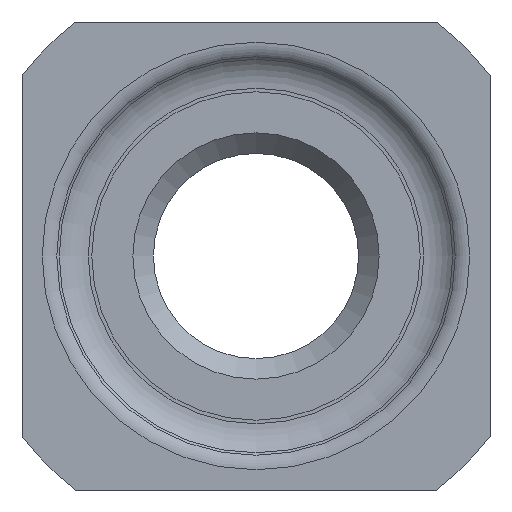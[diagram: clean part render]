
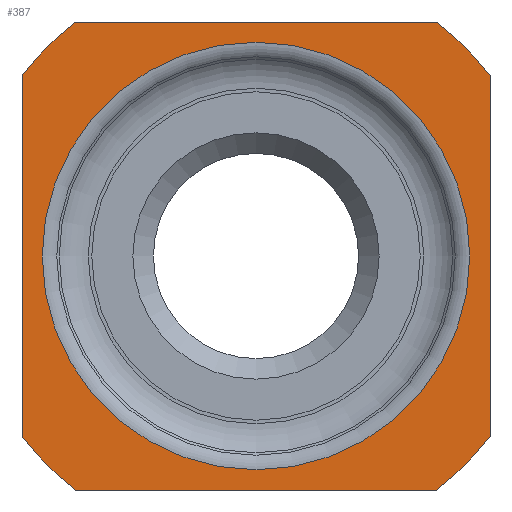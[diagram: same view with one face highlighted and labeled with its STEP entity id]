
A CAD part, front view. The second image highlights one B-rep face of the part: STEP entity #387.
In plain terms, the highlighted planar face has unit normal (0, -1, 0).
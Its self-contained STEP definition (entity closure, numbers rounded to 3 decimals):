
#27=FACE_BOUND('',#78,.T.);
#31=PLANE('',#448);
#51=FACE_OUTER_BOUND('',#77,.T.);
#77=EDGE_LOOP('',(#289,#290,#291,#292,#293,#294,#295,#296));
#78=EDGE_LOOP('',(#297));
#103=LINE('',#659,#121);
#104=LINE('',#663,#122);
#105=LINE('',#667,#123);
#106=LINE('',#670,#124);
#121=VECTOR('',#535,10.);
#122=VECTOR('',#538,10.);
#123=VECTOR('',#541,10.);
#124=VECTOR('',#544,10.);
#142=CIRCLE('',#442,5.207);
#147=CIRCLE('',#449,7.2);
#148=CIRCLE('',#450,7.2);
#149=CIRCLE('',#451,7.2);
#150=CIRCLE('',#452,7.2);
#173=VERTEX_POINT('',#643);
#177=VERTEX_POINT('',#655);
#178=VERTEX_POINT('',#656);
#179=VERTEX_POINT('',#658);
#180=VERTEX_POINT('',#660);
#181=VERTEX_POINT('',#662);
#182=VERTEX_POINT('',#664);
#183=VERTEX_POINT('',#666);
#184=VERTEX_POINT('',#668);
#213=EDGE_CURVE('',#173,#173,#142,.T.);
#219=EDGE_CURVE('',#177,#178,#147,.T.);
#220=EDGE_CURVE('',#178,#179,#103,.T.);
#221=EDGE_CURVE('',#179,#180,#148,.T.);
#222=EDGE_CURVE('',#180,#181,#104,.T.);
#223=EDGE_CURVE('',#181,#182,#149,.T.);
#224=EDGE_CURVE('',#182,#183,#105,.T.);
#225=EDGE_CURVE('',#183,#184,#150,.T.);
#226=EDGE_CURVE('',#184,#177,#106,.T.);
#289=ORIENTED_EDGE('',*,*,#219,.T.);
#290=ORIENTED_EDGE('',*,*,#220,.T.);
#291=ORIENTED_EDGE('',*,*,#221,.T.);
#292=ORIENTED_EDGE('',*,*,#222,.T.);
#293=ORIENTED_EDGE('',*,*,#223,.T.);
#294=ORIENTED_EDGE('',*,*,#224,.T.);
#295=ORIENTED_EDGE('',*,*,#225,.T.);
#296=ORIENTED_EDGE('',*,*,#226,.T.);
#297=ORIENTED_EDGE('',*,*,#213,.F.);
#387=ADVANCED_FACE('',(#51,#27),#31,.T.);
#442=AXIS2_PLACEMENT_3D('',#644,#518,#519);
#448=AXIS2_PLACEMENT_3D('',#654,#531,#532);
#449=AXIS2_PLACEMENT_3D('',#657,#533,#534);
#450=AXIS2_PLACEMENT_3D('',#661,#536,#537);
#451=AXIS2_PLACEMENT_3D('',#665,#539,#540);
#452=AXIS2_PLACEMENT_3D('',#669,#542,#543);
#518=DIRECTION('center_axis',(0.,-1.,0.));
#519=DIRECTION('ref_axis',(0.,0.,-1.));
#531=DIRECTION('center_axis',(0.,-1.,0.));
#532=DIRECTION('ref_axis',(0.,0.,-1.));
#533=DIRECTION('center_axis',(0.,-1.,0.));
#534=DIRECTION('ref_axis',(0.,0.,1.));
#535=DIRECTION('',(0.,0.,-1.));
#536=DIRECTION('center_axis',(0.,-1.,0.));
#537=DIRECTION('ref_axis',(0.,0.,1.));
#538=DIRECTION('',(1.,0.,0.));
#539=DIRECTION('center_axis',(0.,-1.,0.));
#540=DIRECTION('ref_axis',(0.,0.,1.));
#541=DIRECTION('',(0.,0.,1.));
#542=DIRECTION('center_axis',(0.,-1.,0.));
#543=DIRECTION('ref_axis',(0.,0.,1.));
#544=DIRECTION('',(-1.,0.,0.));
#643=CARTESIAN_POINT('',(0.,-4.5,-5.207));
#644=CARTESIAN_POINT('Origin',(0.,-4.5,0.));
#654=CARTESIAN_POINT('Origin',(0.,-4.5,0.));
#655=CARTESIAN_POINT('',(-4.399,-4.5,5.7));
#656=CARTESIAN_POINT('',(-5.7,-4.5,4.399));
#657=CARTESIAN_POINT('Origin',(0.,-4.5,0.));
#658=CARTESIAN_POINT('',(-5.7,-4.5,-4.399));
#659=CARTESIAN_POINT('',(-5.7,-4.5,-5.7));
#660=CARTESIAN_POINT('',(-4.399,-4.5,-5.7));
#661=CARTESIAN_POINT('Origin',(0.,-4.5,0.));
#662=CARTESIAN_POINT('',(4.399,-4.5,-5.7));
#663=CARTESIAN_POINT('',(5.7,-4.5,-5.7));
#664=CARTESIAN_POINT('',(5.7,-4.5,-4.399));
#665=CARTESIAN_POINT('Origin',(0.,-4.5,0.));
#666=CARTESIAN_POINT('',(5.7,-4.5,4.399));
#667=CARTESIAN_POINT('',(5.7,-4.5,5.7));
#668=CARTESIAN_POINT('',(4.399,-4.5,5.7));
#669=CARTESIAN_POINT('Origin',(0.,-4.5,0.));
#670=CARTESIAN_POINT('',(-5.7,-4.5,5.7));
